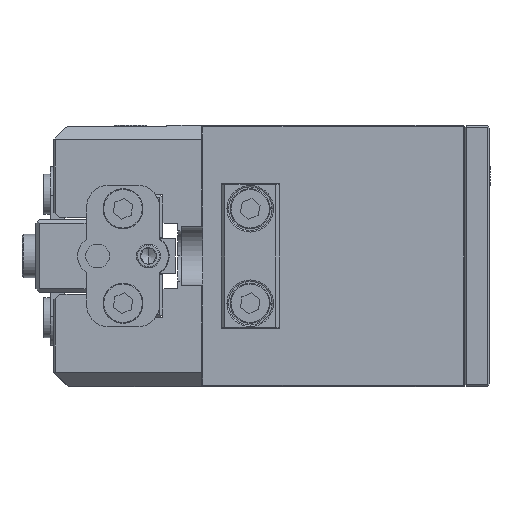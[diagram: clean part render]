
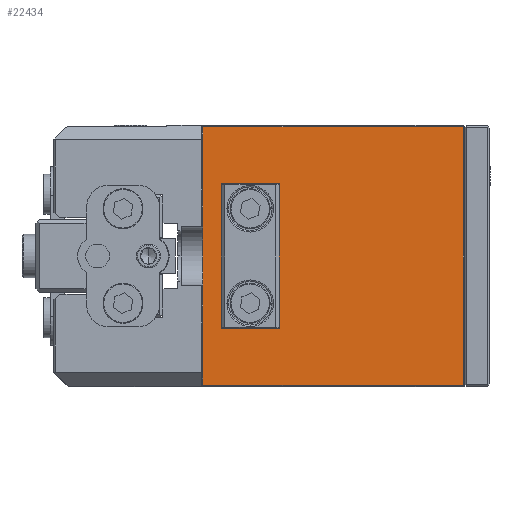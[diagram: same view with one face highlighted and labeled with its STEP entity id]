
A CAD part, left-side view. The second image highlights one B-rep face of the part: STEP entity #22434.
In plain terms, the highlighted planar face has unit normal (-1, 0, 0).
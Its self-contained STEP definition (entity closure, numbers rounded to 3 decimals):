
#669 = FACE_OUTER_BOUND ( 'NONE', #8924, .T. ) ;
#820 = VERTEX_POINT ( 'NONE', #36731 ) ;
#1154 = AXIS2_PLACEMENT_3D ( 'NONE', #46836, #35702, #2043 ) ;
#1246 = ORIENTED_EDGE ( 'NONE', *, *, #25217, .F. ) ;
#2043 = DIRECTION ( 'NONE',  ( 0., 0., 1. ) ) ;
#2584 = DIRECTION ( 'NONE',  ( -1., 0., 0. ) ) ;
#2680 = CIRCLE ( 'NONE', #1154, 1.25 ) ;
#2935 = VERTEX_POINT ( 'NONE', #25024 ) ;
#3495 = CARTESIAN_POINT ( 'NONE',  ( -0.58, 33.804, 19.611 ) ) ;
#3666 = DIRECTION ( 'NONE',  ( 0., 1., 0. ) ) ;
#6281 = DIRECTION ( 'NONE',  ( 0., 0., -1. ) ) ;
#6933 = EDGE_LOOP ( 'NONE', ( #30219, #25135 ) ) ;
#8024 = CARTESIAN_POINT ( 'NONE',  ( -0.58, 4.504, 30.911 ) ) ;
#8924 = EDGE_LOOP ( 'NONE', ( #40274, #1246, #36620, #37242 ) ) ;
#9276 = VERTEX_POINT ( 'NONE', #8024 ) ;
#9434 = VERTEX_POINT ( 'NONE', #28527 ) ;
#9958 = CARTESIAN_POINT ( 'NONE',  ( -0.58, 4.504, 31.111 ) ) ;
#9991 = LINE ( 'NONE', #47838, #40183 ) ;
#10383 = CARTESIAN_POINT ( 'NONE',  ( -0.58, 4.504, -4.689 ) ) ;
#11081 = CARTESIAN_POINT ( 'NONE',  ( -0.58, 25.304, 30.911 ) ) ;
#11269 = EDGE_CURVE ( 'NONE', #27241, #40364, #2680, .T. ) ;
#12488 = CARTESIAN_POINT ( 'NONE',  ( -0.58, 25.304, -4.689 ) ) ;
#13652 = LINE ( 'NONE', #9958, #16590 ) ;
#14538 = CIRCLE ( 'NONE', #27217, 1.25 ) ;
#14804 = LINE ( 'NONE', #11081, #40572 ) ;
#14877 = DIRECTION ( 'NONE',  ( 0., 0., 1. ) ) ;
#15936 = VERTEX_POINT ( 'NONE', #10383 ) ;
#15947 = CARTESIAN_POINT ( 'NONE',  ( -0.58, 33.804, 7.861 ) ) ;
#16022 = CARTESIAN_POINT ( 'NONE',  ( -0.58, 25.304, 31.111 ) ) ;
#16590 = VECTOR ( 'NONE', #25066, 1000. ) ;
#18023 = EDGE_CURVE ( 'NONE', #40364, #27241, #43835, .T. ) ;
#18384 = VECTOR ( 'NONE', #46381, 1000. ) ;
#19241 = PLANE ( 'NONE',  #37727 ) ;
#20053 = AXIS2_PLACEMENT_3D ( 'NONE', #40622, #39898, #21375 ) ;
#21375 = DIRECTION ( 'NONE',  ( 0., 0., 1. ) ) ;
#22171 = CARTESIAN_POINT ( 'NONE',  ( -0.58, 33.804, 19.611 ) ) ;
#22434 = ADVANCED_FACE ( 'NONE', ( #669, #23706, #30856 ), #19241, .F. ) ;
#23706 = FACE_BOUND ( 'NONE', #6933, .T. ) ;
#23984 = EDGE_CURVE ( 'NONE', #2935, #9434, #9991, .T. ) ;
#24357 = ORIENTED_EDGE ( 'NONE', *, *, #40662, .F. ) ;
#25024 = CARTESIAN_POINT ( 'NONE',  ( -0.58, 40.304, 30.911 ) ) ;
#25066 = DIRECTION ( 'NONE',  ( 0., 0., -1. ) ) ;
#25135 = ORIENTED_EDGE ( 'NONE', *, *, #11269, .F. ) ;
#25217 = EDGE_CURVE ( 'NONE', #9276, #15936, #13652, .T. ) ;
#26019 = DIRECTION ( 'NONE',  ( -1., 0., 0. ) ) ;
#27217 = AXIS2_PLACEMENT_3D ( 'NONE', #3495, #26019, #14877 ) ;
#27241 = VERTEX_POINT ( 'NONE', #43728 ) ;
#27650 = EDGE_CURVE ( 'NONE', #45275, #820, #38866, .T. ) ;
#28006 = EDGE_CURVE ( 'NONE', #15936, #9434, #31299, .T. ) ;
#28527 = CARTESIAN_POINT ( 'NONE',  ( -0.58, 40.304, -4.689 ) ) ;
#29068 = DIRECTION ( 'NONE',  ( 0., 0., 1. ) ) ;
#30219 = ORIENTED_EDGE ( 'NONE', *, *, #18023, .F. ) ;
#30365 = DIRECTION ( 'NONE',  ( 1., 0., 0. ) ) ;
#30856 = FACE_BOUND ( 'NONE', #40276, .T. ) ;
#31299 = LINE ( 'NONE', #12488, #18384 ) ;
#31323 = CARTESIAN_POINT ( 'NONE',  ( -0.58, 33.804, 18.361 ) ) ;
#34325 = DIRECTION ( 'NONE',  ( 0., 0., -1. ) ) ;
#34955 = AXIS2_PLACEMENT_3D ( 'NONE', #22171, #2584, #29068 ) ;
#35702 = DIRECTION ( 'NONE',  ( -1., 0., 0. ) ) ;
#36620 = ORIENTED_EDGE ( 'NONE', *, *, #46360, .T. ) ;
#36731 = CARTESIAN_POINT ( 'NONE',  ( -0.58, 33.804, 20.861 ) ) ;
#37242 = ORIENTED_EDGE ( 'NONE', *, *, #23984, .T. ) ;
#37727 = AXIS2_PLACEMENT_3D ( 'NONE', #16022, #30365, #34325 ) ;
#38866 = CIRCLE ( 'NONE', #34955, 1.25 ) ;
#39898 = DIRECTION ( 'NONE',  ( -1., 0., 0. ) ) ;
#40183 = VECTOR ( 'NONE', #6281, 1000. ) ;
#40274 = ORIENTED_EDGE ( 'NONE', *, *, #28006, .F. ) ;
#40276 = EDGE_LOOP ( 'NONE', ( #24357, #43492 ) ) ;
#40364 = VERTEX_POINT ( 'NONE', #15947 ) ;
#40572 = VECTOR ( 'NONE', #3666, 1000. ) ;
#40622 = CARTESIAN_POINT ( 'NONE',  ( -0.58, 33.804, 6.611 ) ) ;
#40662 = EDGE_CURVE ( 'NONE', #820, #45275, #14538, .T. ) ;
#43492 = ORIENTED_EDGE ( 'NONE', *, *, #27650, .F. ) ;
#43728 = CARTESIAN_POINT ( 'NONE',  ( -0.58, 33.804, 5.361 ) ) ;
#43835 = CIRCLE ( 'NONE', #20053, 1.25 ) ;
#45275 = VERTEX_POINT ( 'NONE', #31323 ) ;
#46360 = EDGE_CURVE ( 'NONE', #9276, #2935, #14804, .T. ) ;
#46381 = DIRECTION ( 'NONE',  ( 0., 1., 0. ) ) ;
#46836 = CARTESIAN_POINT ( 'NONE',  ( -0.58, 33.804, 6.611 ) ) ;
#47838 = CARTESIAN_POINT ( 'NONE',  ( -0.58, 40.304, 31.111 ) ) ;
